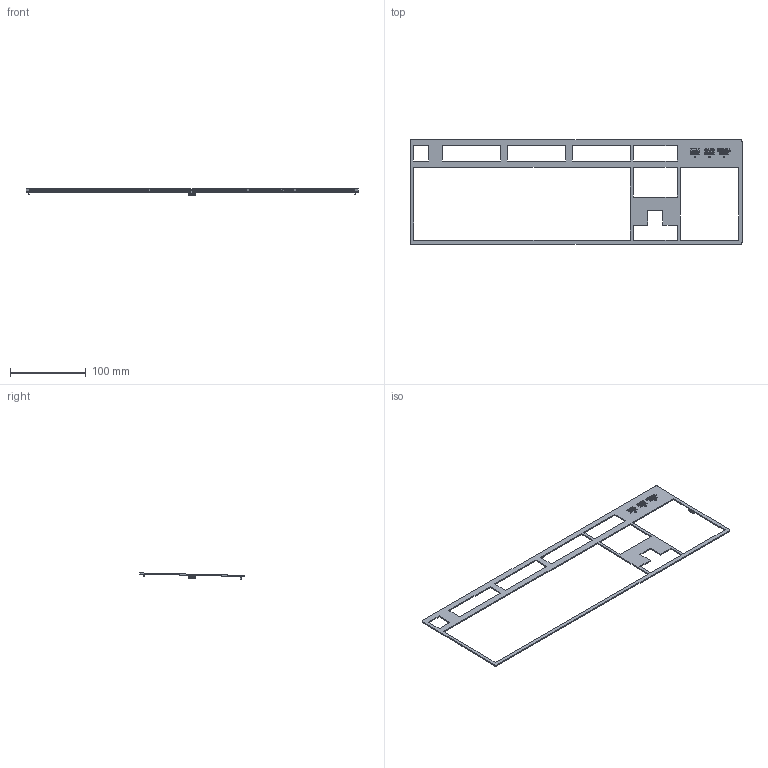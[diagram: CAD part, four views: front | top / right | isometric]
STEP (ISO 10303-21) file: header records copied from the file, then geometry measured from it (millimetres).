
FILE_DESCRIPTION(('STEP AP242 Edition 2','STEP AP242 Edition 2''CAx-IF Rec.Pracs.---Representation and Presentation of Product Manufacturing Information (PMI)---4.0---2014-10-13','STEP AP242 Edition 2''CAx-IF Rec.Pracs.---Representation and Presentation of Product Manufacturing Information (PMI)---4.0---2014-10-13''CAx-IF Rec.Pracs.---3D Tessellated Geometry---0.4---2014-09-14','STEP AP242 Edition 2''CAx-IF Rec.Pracs.---Representation and Presentation of Product Manufacturing Information (PMI)---4.0---2014-10-13''CAx-IF Rec.Pracs.---3D Tessellated Geometry---0.4---2014-09-14''2;1','STEP AP242 Edition 2''CAx-IF Rec.Pracs.---Representation and Presentation of Product Manufacturing Information (PMI)---4.0---2014-10-13''CAx-IF Rec.Pracs.---3D Tessellated Geometry---0.4---2014-09-14''2;1''CAx-IF Rec.Pracs.---User Defined Attributes---1.5---2016-08-15'),'2;1');
FILE_NAME('/vol/tmp/translate-job-12365391357250807974/translate-2322077590236900284/Enclosure - Top Cover.step','2026-11-02T17:50:00',(''),(''),'ST-DEVELOPER v20','ONSHAPE BY PTC INC, 1.223',' ');
FILE_SCHEMA(('AP242_MANAGED_MODEL_BASED_3D_ENGINEERING_MIM_LF { 1 0 10303 442 3 1 4 }'));
Length unit declared in the file: metre
Products named in the file (1): Top Cover
Bounding box: 438.79 x 138.05 x 8.17 mm (x, y, z)
Volume: 23366.5 mm3; surface area: 36740.6 mm2
Topology: 1 solids, 1 shells, 517 faces, 1443 edges, 962 vertices
Faces by surface type: plane 249, bspline 153, cylinder 115
Full cylindrical faces by diameter (mm): 2 x3
Entity records: 17134 total; most frequent: CARTESIAN_POINT 4603, ORIENTED_EDGE 2880, DIRECTION 2094, EDGE_CURVE 1440, VERTEX_POINT 962, LINE 904, VECTOR 904, AXIS2_PLACEMENT_3D 595
